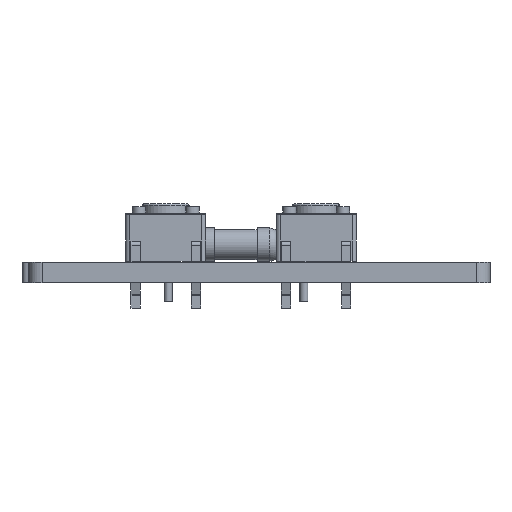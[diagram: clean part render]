
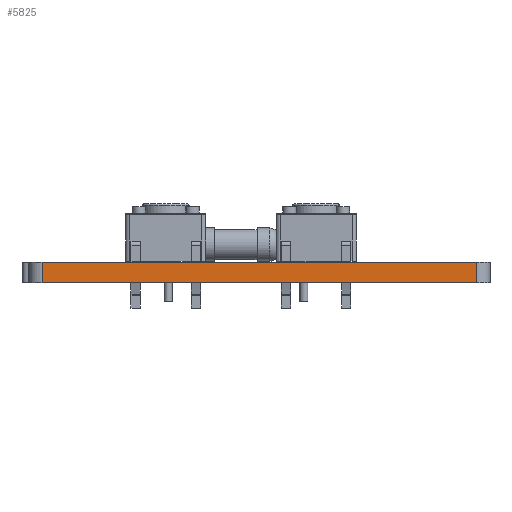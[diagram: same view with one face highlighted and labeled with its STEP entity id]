
A CAD part, front view. The second image highlights one B-rep face of the part: STEP entity #5825.
In plain terms, the highlighted planar face has unit normal (0, -1, 0).
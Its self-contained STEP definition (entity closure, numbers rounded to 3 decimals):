
#3851 = VERTEX_POINT('',#3852);
#3852 = CARTESIAN_POINT('',(111.5,-181.5,0.));
#3859 = EDGE_CURVE('',#3860,#3851,#3862,.T.);
#3860 = VERTEX_POINT('',#3861);
#3861 = CARTESIAN_POINT('',(144.,-181.5,0.));
#3862 = LINE('',#3863,#3864);
#3863 = CARTESIAN_POINT('',(144.,-181.5,0.));
#3864 = VECTOR('',#3865,1.);
#3865 = DIRECTION('',(-1.,0.,0.));
#4833 = VERTEX_POINT('',#4834);
#4834 = CARTESIAN_POINT('',(111.5,-181.5,1.51));
#4841 = EDGE_CURVE('',#4842,#4833,#4844,.T.);
#4842 = VERTEX_POINT('',#4843);
#4843 = CARTESIAN_POINT('',(144.,-181.5,1.51));
#4844 = LINE('',#4845,#4846);
#4845 = CARTESIAN_POINT('',(144.,-181.5,1.51));
#4846 = VECTOR('',#4847,1.);
#4847 = DIRECTION('',(-1.,0.,0.));
#5797 = EDGE_CURVE('',#3860,#4842,#5798,.T.);
#5798 = LINE('',#5799,#5800);
#5799 = CARTESIAN_POINT('',(144.,-181.5,0.));
#5800 = VECTOR('',#5801,1.);
#5801 = DIRECTION('',(0.,0.,1.));
#5825 = ADVANCED_FACE('',(#5826),#5837,.T.);
#5826 = FACE_BOUND('',#5827,.T.);
#5827 = EDGE_LOOP('',(#5828,#5829,#5830,#5836));
#5828 = ORIENTED_EDGE('',*,*,#5797,.T.);
#5829 = ORIENTED_EDGE('',*,*,#4841,.T.);
#5830 = ORIENTED_EDGE('',*,*,#5831,.F.);
#5831 = EDGE_CURVE('',#3851,#4833,#5832,.T.);
#5832 = LINE('',#5833,#5834);
#5833 = CARTESIAN_POINT('',(111.5,-181.5,0.));
#5834 = VECTOR('',#5835,1.);
#5835 = DIRECTION('',(0.,0.,1.));
#5836 = ORIENTED_EDGE('',*,*,#3859,.F.);
#5837 = PLANE('',#5838);
#5838 = AXIS2_PLACEMENT_3D('',#5839,#5840,#5841);
#5839 = CARTESIAN_POINT('',(144.,-181.5,0.));
#5840 = DIRECTION('',(0.,-1.,0.));
#5841 = DIRECTION('',(-1.,0.,0.));
